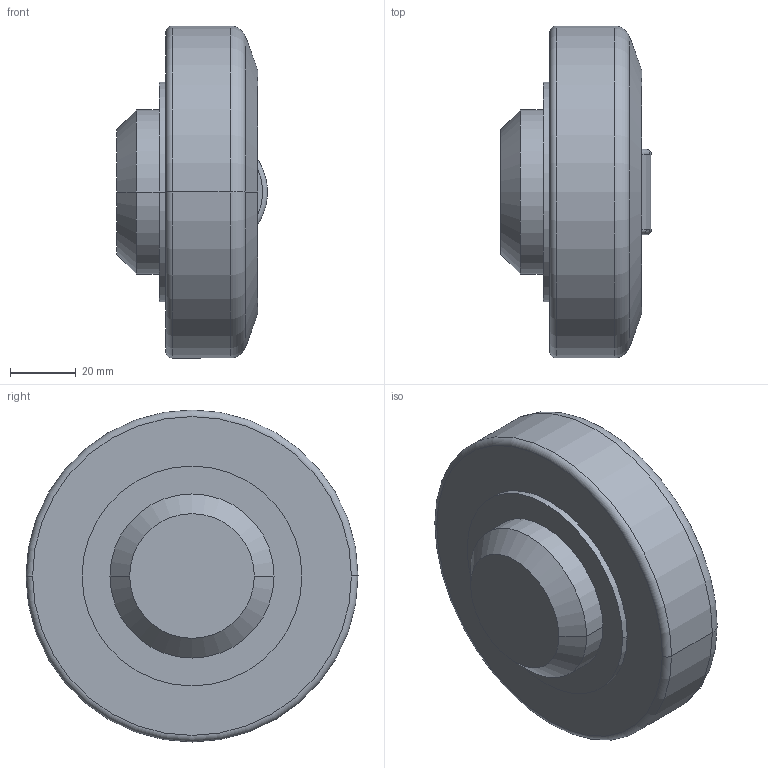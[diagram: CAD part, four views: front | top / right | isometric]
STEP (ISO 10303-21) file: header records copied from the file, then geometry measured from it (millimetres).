
FILE_DESCRIPTION (( 'STEP AP203' ), '1' );
FILE_NAME ('3D40059.STEP', '2002-11-20T10:00:32', ( 'Francesc' ), ( 'propia' ), 'SwSTEP 2.0', 'SolidWorks 2001039', '' );
FILE_SCHEMA (( 'CONFIG_CONTROL_DESIGN' ));
Length unit declared in the file: millimetre
Products named in the file (1): 2
Bounding box: 45.94 x 101.2 x 101.2 mm (x, y, z)
Volume: 245688.8 mm3; surface area: 25052.6 mm2
Topology: 1 solids, 1 shells, 23 faces, 46 edges, 28 vertices
Faces by surface type: cylinder 7, torus 6, plane 6, cone 4
Entity records: 725 total; most frequent: CARTESIAN_POINT 150, DIRECTION 118, ORIENTED_EDGE 92, AXIS2_PLACEMENT_3D 52, EDGE_CURVE 46, VERTEX_POINT 28, CIRCLE 28, EDGE_LOOP 26
